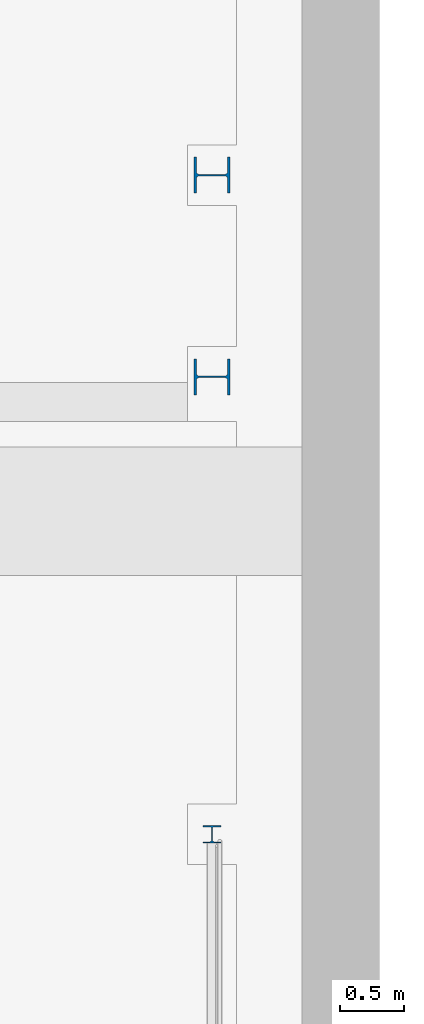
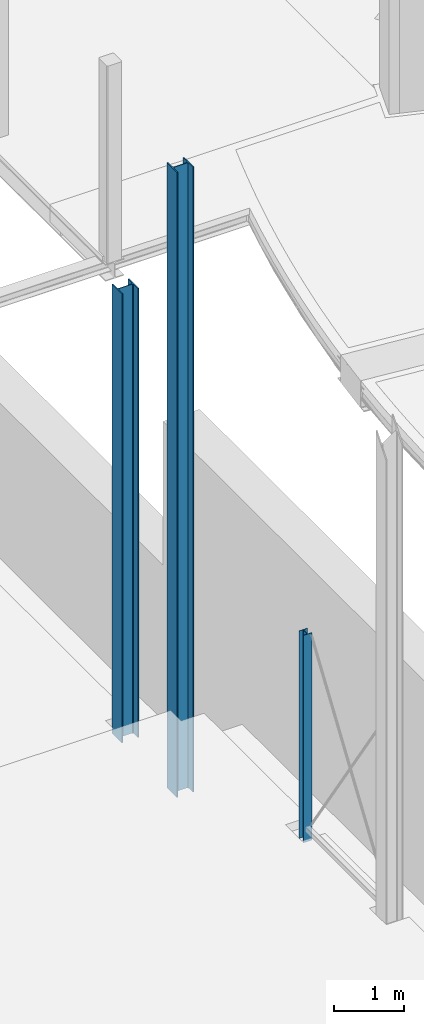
# One storey, part 4 of 37: 3 columns.
"""IFC2X3 building model written with IfcOpenShell, lengths in millimetres."""

from ifc_helpers import new_model, entity, si_unit, converted_unit, derived_unit, direction, frame, frame_2d, origin, place, context, subcontext, project, spatial, polyline, circle_curve, parameter, trimmed, segment, composite_curve, i_section, outline, extrude, source, transform, mapped, material, type_object, type_shapes, element, save


model = new_model("IFC2X3")

# Units and contexts
model_context = context("Model", 3, precision=0.01, world=origin(), true_north=direction((6.12303176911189e-17, 1.0)))
body_context = subcontext(model_context, "Body", "Model", "MODEL_VIEW")
ifc_project = project(units=[si_unit("LENGTHUNIT", "METRE", prefix="MILLI"), si_unit("AREAUNIT", "SQUARE_METRE", prefix="MILLI"), si_unit("VOLUMEUNIT", "CUBIC_METRE"), converted_unit("PLANEANGLEUNIT", "DEGREE", entity("IfcRatioMeasure", 0.0174532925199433), si_unit("PLANEANGLEUNIT", "RADIAN"), dimensions=[0, 0, 0, 0, 0, 0, 0]), si_unit("MASSUNIT", "GRAM", prefix="KILO"), derived_unit("MASSDENSITYUNIT", [(si_unit("MASSUNIT", "GRAM", prefix="KILO"), 1), (si_unit("LENGTHUNIT", "METRE"), -3)]), derived_unit("MOMENTOFINERTIAUNIT", [(si_unit("LENGTHUNIT", "METRE"), 4)]), si_unit("TIMEUNIT", "SECOND"), si_unit("FREQUENCYUNIT", "HERTZ"), si_unit("THERMODYNAMICTEMPERATUREUNIT", "DEGREE_CELSIUS"), derived_unit("THERMALTRANSMITTANCEUNIT", [(si_unit("MASSUNIT", "GRAM", prefix="KILO"), 1), (si_unit("THERMODYNAMICTEMPERATUREUNIT", "KELVIN"), -1), (si_unit("TIMEUNIT", "SECOND"), -3)]), derived_unit("VOLUMETRICFLOWRATEUNIT", [(si_unit("LENGTHUNIT", "METRE"), 3), (si_unit("TIMEUNIT", "SECOND"), -1)]), si_unit("ELECTRICCURRENTUNIT", "AMPERE"), si_unit("ELECTRICVOLTAGEUNIT", "VOLT"), si_unit("POWERUNIT", "WATT"), si_unit("FORCEUNIT", "NEWTON", prefix="KILO"), si_unit("ILLUMINANCEUNIT", "LUX"), si_unit("LUMINOUSFLUXUNIT", "LUMEN"), si_unit("LUMINOUSINTENSITYUNIT", "CANDELA"), derived_unit("USERDEFINED", [(si_unit("MASSUNIT", "GRAM", prefix="KILO"), -1), (si_unit("LENGTHUNIT", "METRE"), -2), (si_unit("TIMEUNIT", "SECOND"), 3), (si_unit("LUMINOUSFLUXUNIT", "LUMEN"), 1)]), derived_unit("LINEARVELOCITYUNIT", [(si_unit("LENGTHUNIT", "METRE"), 1), (si_unit("TIMEUNIT", "SECOND"), -1)]), si_unit("PRESSUREUNIT", "PASCAL"), derived_unit("USERDEFINED", [(si_unit("LENGTHUNIT", "METRE"), -2), (si_unit("MASSUNIT", "GRAM", prefix="KILO"), 1), (si_unit("TIMEUNIT", "SECOND"), -2)]), derived_unit("LINEARFORCEUNIT", [(si_unit("MASSUNIT", "GRAM", prefix="KILO"), 1), (si_unit("LENGTHUNIT", "METRE"), 1), (si_unit("TIMEUNIT", "SECOND"), -2), (si_unit("LENGTHUNIT", "METRE"), -1)]), derived_unit("PLANARFORCEUNIT", [(si_unit("MASSUNIT", "GRAM", prefix="KILO"), 1), (si_unit("LENGTHUNIT", "METRE"), 1), (si_unit("TIMEUNIT", "SECOND"), -2), (si_unit("LENGTHUNIT", "METRE"), -2)])], contexts=[model_context])

# Site, building, storey
site_placement = place(None, origin())
site = spatial("IfcSite", under=ifc_project, at=site_placement, Name="Theater aan de Parade", CompositionType="ELEMENT")
building_placement = place(site_placement, origin())
building = spatial("IfcBuilding", under=site, at=building_placement, Name="Theater aan de Parade", CompositionType="ELEMENT")
storey_placement = place(building_placement, frame((0.0, 0.0, 5020.0)))
storey = spatial("IfcBuildingStorey", under=building, at=storey_placement, Name="01 eerste verdieping", CompositionType="ELEMENT", Elevation=5020.0)

# Columns
ifc_material = material(Name="00_PBT_MAT_staal_S355")
column_type_1 = type_object("IfcColumnType", Name="28_PBT_SC_staal_H-profiel:S355_HE280B", PredefinedType="COLUMN", material=ifc_material)
shared_shape_1 = source(origin(), body_context, "Body", "SweptSolid", [
    extrude(outline(composite_curve([segment(polyline([(122.0, -140.0), (140.0, -140.0)]), True, "CONTINUOUS"), segment(polyline([(140.0, -140.0), (140.0, 140.0)]), True, "CONTINUOUS"), segment(polyline([(140.0, 140.0), (122.0, 140.0)]), True, "CONTINUOUS"), segment(polyline([(122.0, 140.0), (122.0, 29.25)]), True, "CONTINUOUS"), segment(trimmed(circle_curve(frame_2d((98.0, 29.25), x_axis=(1.0, 0.0)), 23.9999999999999), [parameter(269.999999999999)], [parameter(0.0)], True, "PARAMETER"), False, "CONTINUOUS"), segment(polyline([(98.0, 5.25000000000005), (-98.0, 5.25)]), True, "CONTINUOUS"), segment(trimmed(circle_curve(frame_2d((-98.0, 29.25), x_axis=(0.0, -1.0)), 24.0), [parameter(270.0)], [parameter(0.0)], True, "PARAMETER"), False, "CONTINUOUS"), segment(polyline([(-122.0, 29.2499999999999), (-122.0, 140.0)]), True, "CONTINUOUS"), segment(polyline([(-122.0, 140.0), (-140.0, 140.0)]), True, "CONTINUOUS"), segment(polyline([(-140.0, 140.0), (-140.0, -140.0)]), True, "CONTINUOUS"), segment(polyline([(-140.0, -140.0), (-122.0, -140.0)]), True, "CONTINUOUS"), segment(polyline([(-122.0, -140.0), (-122.0, -29.2500000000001)]), True, "CONTINUOUS"), segment(trimmed(circle_curve(frame_2d((-98.0, -29.25), x_axis=(-1.0, 0.0)), 24.0), [parameter(270.0)], [parameter(0.0)], True, "PARAMETER"), False, "CONTINUOUS"), segment(polyline([(-98.0, -5.25), (98.0, -5.24999999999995)]), True, "CONTINUOUS"), segment(trimmed(circle_curve(frame_2d((98.0, -29.2499999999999), x_axis=(0.0, 1.0)), 23.9999999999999), [parameter(270.0)], [parameter(0.0)], True, "PARAMETER"), False, "CONTINUOUS"), segment(polyline([(122.0, -29.25), (122.0, -140.0)]), True, "CONTINUOUS")], self_intersect=False)), frame((0.0, 0.0, 3545.0), z_axis=(0.0, 0.0, 1.0), x_axis=(0.0, -1.0, 0.0)), (0.0, 0.0, 1.0), 10865.0),
])
type_shapes(column_type_1, [shared_shape_1])
column_1_placement = place(storey_placement, frame((36153.8581300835, 29518.2922984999, -5020.0), z_axis=(0.0, 0.0, 1.0), x_axis=(0.0, 1.0, 0.0)))
element("IfcColumn", 1, at=column_1_placement, inside=storey, type_object=column_type_1, material=ifc_material, Name="28_PBT_SC_staal_H-profiel:S355_HE280B", ObjectType="28_PBT_SC_staal_H-profiel:S355_HE280B", context=body_context, shape_type="MappedRepresentation", body=[
    mapped(shared_shape_1, transform((0.0, 0.0, 0.0), scale=1.0)),
])
column_type_2 = type_object("IfcColumnType", Name="28_PBT_SC_staal_H-profiel:S355_HE280B", PredefinedType="COLUMN", material=ifc_material)
shared_shape_2 = source(origin(), body_context, "Body", "SweptSolid", [
    extrude(i_section(OverallWidth=280.000000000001, OverallDepth=279.999999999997, WebThickness=10.5000000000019, FlangeThickness=18.0000000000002, FilletRadius=23.9999999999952, at=frame_2d((6.49436060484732e-12, 0.0), x_axis=(1.0, 0.0))), frame((36153.8581300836, 31086.3144978, 3545.0), z_axis=(0.0, 0.0, 1.0), x_axis=(0.0, -1.0, 0.0)), (0.0, 0.0, 1.0), 7804.99999999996),
])
type_shapes(column_type_2, [shared_shape_2])
column_2_placement = place(storey_placement, frame((0.0, 0.0, -5020.0)))
element("IfcColumn", 2, at=column_2_placement, inside=storey, type_object=column_type_2, material=ifc_material, Name="28_PBT_SC_staal_H-profiel:S355_HE280B", ObjectType="28_PBT_SC_staal_H-profiel:S355_HE280B", context=body_context, shape_type="MappedRepresentation", body=[
    mapped(shared_shape_2, transform((0.0, 0.0, 0.0), scale=1.0)),
])
column_type_3 = type_object("IfcColumnType", Name="28_PBT_SC_staal_H-profiel:S355_HE140A", PredefinedType="COLUMN", material=ifc_material)
shared_shape_3 = source(origin(), body_context, "Body", "SweptSolid", [
    extrude(i_section(OverallWidth=139.999999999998, OverallDepth=132.999999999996, WebThickness=5.50000000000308, FlangeThickness=8.49999999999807, FilletRadius=12.0000000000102, at=frame_2d((-2.1600499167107e-12, 2.1600499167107e-12), x_axis=(0.0, 1.0))), frame((36153.8581300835, 25963.2922984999, 4845.0), z_axis=(0.0, 0.0, 1.0), x_axis=(0.0, -1.0, 0.0)), (0.0, 0.0, 1.0), 3605.0),
])
type_shapes(column_type_3, [shared_shape_3])
column_3_placement = place(storey_placement, frame((0.0, 0.0, -5020.0)))
element("IfcColumn", 3, at=column_3_placement, inside=storey, type_object=column_type_3, material=ifc_material, Name="28_PBT_SC_staal_H-profiel:S355_HE140A", ObjectType="28_PBT_SC_staal_H-profiel:S355_HE140A", context=body_context, shape_type="MappedRepresentation", body=[
    mapped(shared_shape_3, transform((0.0, 0.0, 0.0), scale=1.0)),
])

save(model, "model.ifc")
